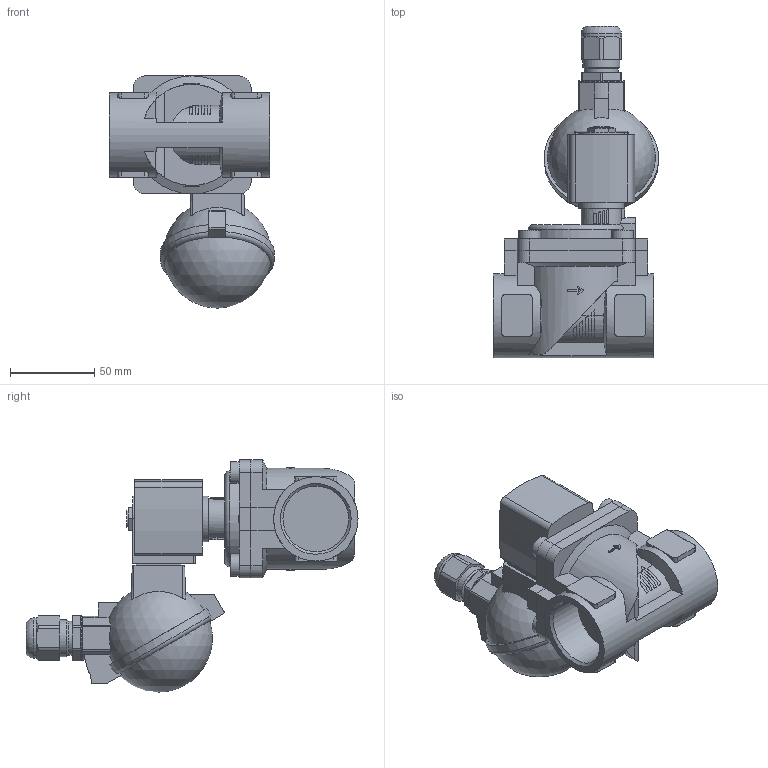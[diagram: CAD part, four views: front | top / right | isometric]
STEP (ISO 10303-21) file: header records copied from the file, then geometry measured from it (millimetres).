
FILE_DESCRIPTION(/* description */ ('STEP AP214'),/* implementation_level */ '2;1');
FILE_NAME(/* name */ '6281-378627-2_2-Way_Solenoid_Valve__Servo-assisted__General_Purpose',/* time_stamp */ '2024-08-28T21:47:20+02:00',/* author */ ('License CC BY-ND 4.0'),/* organization */ ('CADENAS'),/* preprocessor_version */ 'ST-DEVELOPER v19.3',/* originating_system */ 'PARTsolutions',/* authorisation */ ' ');
FILE_SCHEMA (('AUTOMOTIVE_DESIGN {1 0 10303 214 3 1 1}'));
Length unit declared in the file: millimetre
Products named in the file (4): 6281-378627-2/2-Way Solenoid Valve, Servo-assisted, General Purpose; 5281ev250VA2/2-Wege-Magnetventil mit Servomembran-Deckel   ; 6213-25G1_1/4VA-Gehaeuse-; AC10ex-6ATEXKLK_MB05Plan-Coil
Assembly tree (3 placements, depth 2):
  6281-378627-2/2-Way Solenoid Valve, Servo-assisted, General Purpose
    5281ev250VA2/2-Wege-Magnetventil mit Servomembran-Deckel   
    6213-25G1_1/4VA-Gehaeuse-
    AC10ex-6ATEXKLK_MB05Plan-Coil
Bounding box: 97.93 x 196.8 x 137.7 mm (x, y, z)
Volume: 519272.9 mm3; surface area: 84340.8 mm2
Topology: 3 solids, 3 shells, 395 faces, 1040 edges, 684 vertices
Faces by surface type: plane 247, cylinder 111, cone 29, torus 4, sphere 4
Full cylindrical faces by diameter (mm): 3.242 x1, 9.74 x1, 13 x4, 14 x1, 17.294 x1, 20 x1, 22 x1, 23 x1, 24 x1, 27 x2, 38.952 x2, 50 x1
Entity records: 13780 total; most frequent: CARTESIAN_POINT 2432, DIRECTION 2044, ORIENTED_EDGE 1996, EDGE_CURVE 998, AXIS2_PLACEMENT_3D 742, VERTEX_POINT 670, LINE 560, VECTOR 560
